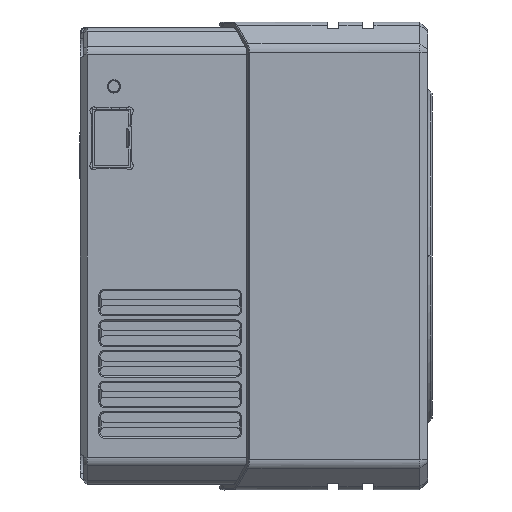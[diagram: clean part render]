
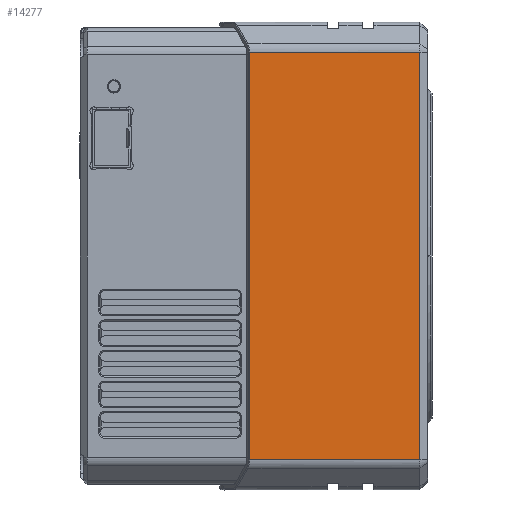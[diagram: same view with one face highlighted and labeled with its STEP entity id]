
A CAD part, front view. The second image highlights one B-rep face of the part: STEP entity #14277.
In plain terms, the highlighted planar face has unit normal (0, -1, 0).
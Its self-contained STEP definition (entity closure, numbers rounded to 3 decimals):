
#1125=DIRECTION('',(1.,0.,0.));
#1126=VECTOR('',#1125,43.607);
#1127=CARTESIAN_POINT('',(-21.197,-60.,-52.257));
#1128=LINE('',#1127,#1126);
#1138=DIRECTION('',(0.,0.,-1.));
#1139=VECTOR('',#1138,104.515);
#1140=CARTESIAN_POINT('',(-21.197,-60.,52.257));
#1141=LINE('',#1140,#1139);
#1150=DIRECTION('',(1.,0.,0.));
#1151=VECTOR('',#1150,43.607);
#1152=CARTESIAN_POINT('',(-21.197,-60.,52.257));
#1153=LINE('',#1152,#1151);
#1154=DIRECTION('',(0.,0.,-1.));
#1155=VECTOR('',#1154,104.515);
#1156=CARTESIAN_POINT('',(22.41,-60.,52.257));
#1157=LINE('',#1156,#1155);
#9980=CARTESIAN_POINT('',(22.41,-60.,52.257));
#9981=VERTEX_POINT('',#9980);
#9982=CARTESIAN_POINT('',(22.41,-60.,
-52.257));
#9983=VERTEX_POINT('',#9982);
#10171=CARTESIAN_POINT('',(-21.197,-60.,52.257));
#10172=VERTEX_POINT('',#10171);
#10173=CARTESIAN_POINT('',(-21.197,-60.,-52.257));
#10174=VERTEX_POINT('',#10173);
#14264=CARTESIAN_POINT('',(0.607,-60.,0.));
#14265=DIRECTION('',(0.,1.,0.));
#14266=DIRECTION('',(0.,0.,-1.));
#14267=AXIS2_PLACEMENT_3D('',#14264,#14265,#14266);
#14268=PLANE('',#14267);
#14269=ORIENTED_EDGE('',*,*,#14255,.F.);
#14271=ORIENTED_EDGE('',*,*,#14270,.T.);
#14273=ORIENTED_EDGE('',*,*,#14272,.T.);
#14274=ORIENTED_EDGE('',*,*,#14197,.F.);
#14275=EDGE_LOOP('',(#14269,#14271,#14273,#14274));
#14276=FACE_OUTER_BOUND('',#14275,.F.);
#14277=ADVANCED_FACE('',(#14276),#14268,.F.);
#14197=EDGE_CURVE('',#10174,#9983,#1128,.T.);
#14255=EDGE_CURVE('',#10172,#10174,#1141,.T.);
#14270=EDGE_CURVE('',#10172,#9981,#1153,.T.);
#14272=EDGE_CURVE('',#9981,#9983,#1157,.T.);
